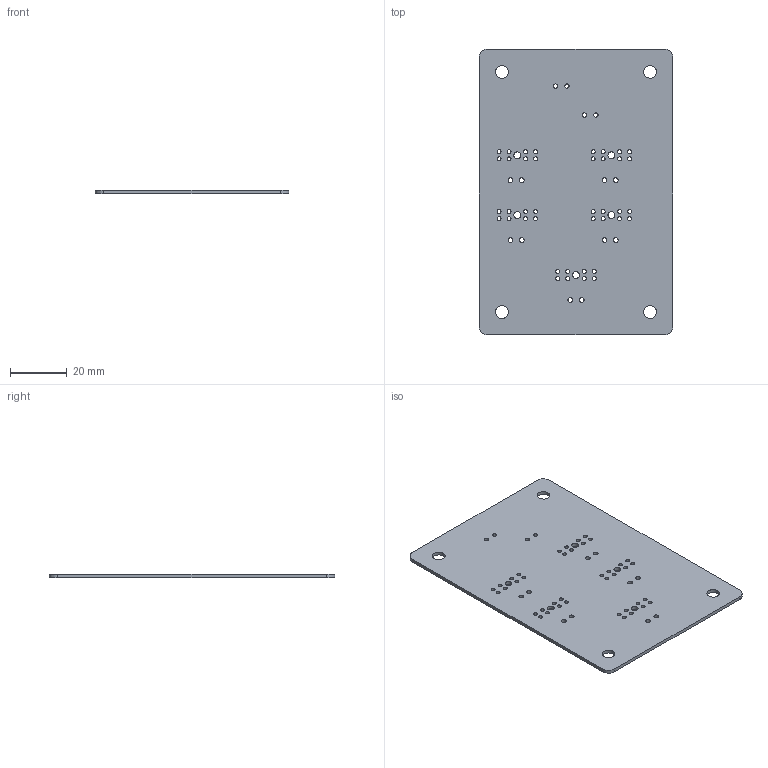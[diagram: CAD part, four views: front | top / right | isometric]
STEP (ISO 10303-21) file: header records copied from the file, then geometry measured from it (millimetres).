
FILE_DESCRIPTION(('Open CASCADE Model'),'2;1');
FILE_NAME('Open CASCADE Shape Model','2026-09-27T12:05:15',('Author'),( 'Open CASCADE'),'Open CASCADE STEP processor 8.0','Open CASCADE 8.0' ,'Unknown');
FILE_SCHEMA(('AUTOMOTIVE_DESIGN { 1 0 10303 214 1 1 1 1 }'));
Length unit declared in the file: millimetre
Products named in the file (1): Open CASCADE STEP translator 8.0 1
Bounding box: 68 x 100.26 x 1.2 mm (x, y, z)
Volume: 7957 mm3; surface area: 14073.5 mm2
Topology: 1 solids, 1 shells, 73 faces, 213 edges, 142 vertices
Faces by surface type: bspline 73
Entity records: 7110 total; most frequent: CARTESIAN_POINT 4399, ORIENTED_EDGE 426, PCURVE 426, DEFINITIONAL_REPRESENTATION 426, B_SPLINE_CURVE_WITH_KNOTS 371, EDGE_CURVE 213, FACE_BOUND 199, EDGE_LOOP 199
